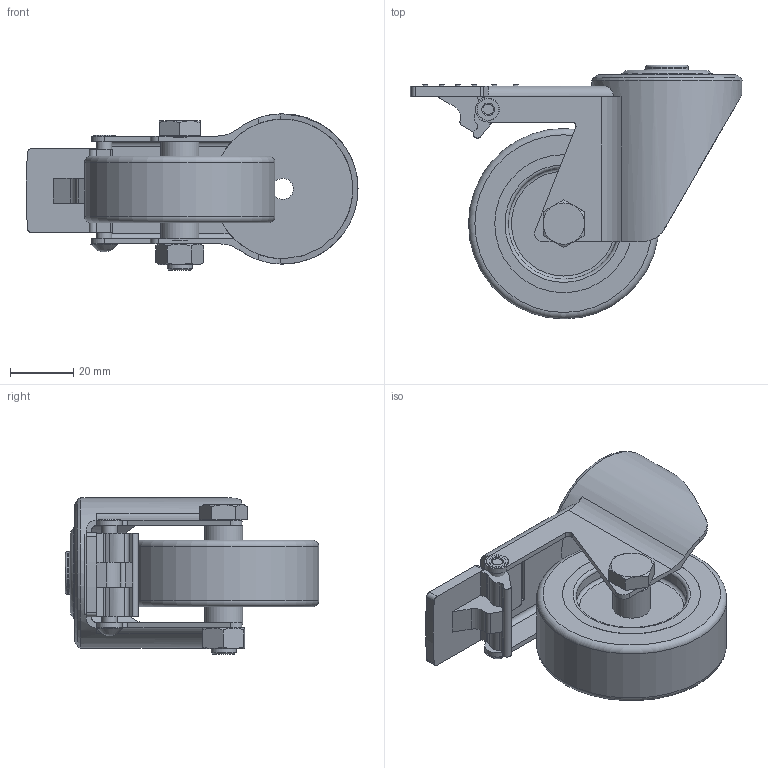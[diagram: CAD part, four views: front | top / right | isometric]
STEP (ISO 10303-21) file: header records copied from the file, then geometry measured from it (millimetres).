
FILE_DESCRIPTION(/* description */ (''),/* implementation_level */ '2;1');
FILE_NAME(/* name */ 'C:\Users\Stefan.Nesic\Desktop\01010STEP\R60FA.stp',/* time_stamp */ '2022-06-27T13:44:32+02:00',/* author */ ('stefan.nesic'),/* organization */ (''),/* preprocessor_version */ 'ST-DEVELOPER v18.1',/* originating_system */ 'Autodesk Inventor 2021',/* authorisation */ '');
FILE_SCHEMA (('AUTOMOTIVE_DESIGN { 1 0 10303 214 3 1 1 }'));
Length unit declared in the file: millimetre
Products named in the file (8): Assieme4; Ruota base; pernocentrale; 209922010922; Dado esagonale M8 zincato DIN 934; 209922030369; pedalina; perno
Assembly tree (7 placements, depth 3):
  Assieme4
    Ruota base
    pernocentrale
      209922010922
      Dado esagonale M8 zincato DIN 934
    209922030369
    pedalina
    perno
Bounding box: 104.61 x 80 x 49.25 mm (x, y, z)
Volume: 75165.9 mm3; surface area: 35121.5 mm2
Topology: 6 solids, 6 shells, 218 faces, 521 edges, 334 vertices
Faces by surface type: plane 104, cylinder 67, torus 22, cone 22, bspline 3
Full cylindrical faces by diameter (mm): 3.35 x1, 4.8 x1, 5.667 x2, 6 x1, 6.647 x1, 6.667 x1, 8 x2, 10 x2, 11.63 x1, 12 x1, 13.333 x1, 35 x2, 43.5 x2, 44 x1, 47.333 x1, 60 x1
Entity records: 6755 total; most frequent: CARTESIAN_POINT 1283, DIRECTION 1152, ORIENTED_EDGE 1038, EDGE_CURVE 519, AXIS2_PLACEMENT_3D 452, VERTEX_POINT 334, EDGE_LOOP 249, LINE 248
